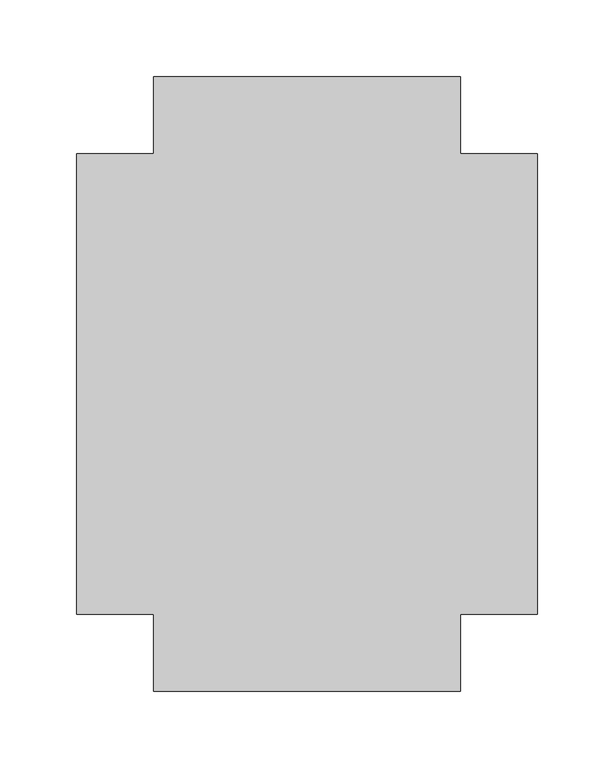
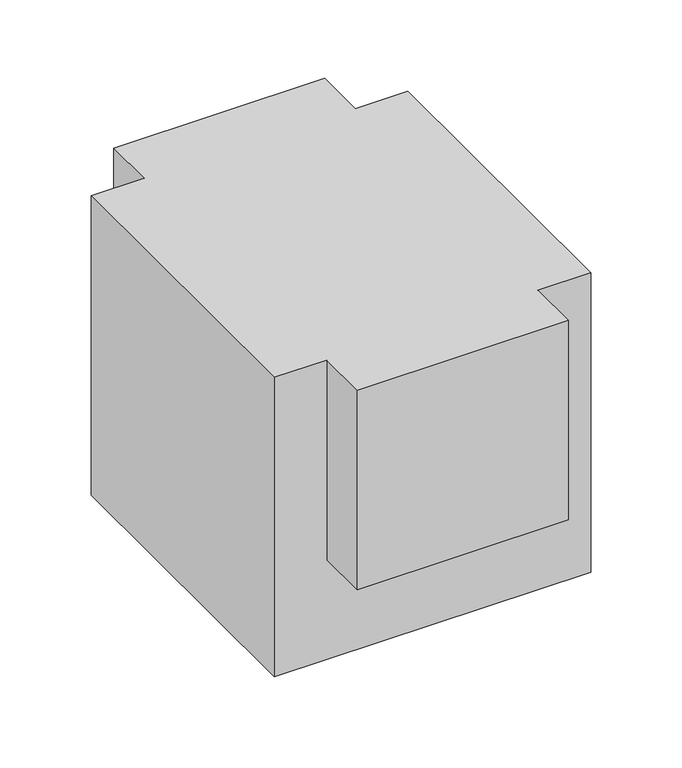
"""IFC4 building model written with IfcOpenShell, lengths in millimetres: duct fitting geometry, BL_КрестовинаВоздуховодов_Прямоугольная : BL_КрестовинаВоздуховодов_Прямоугольная."""

from ifc_helpers import new_model, si_unit, origin, place, context, project, spatial, faceted_brep, source, transform, mapped, element, save


def duct_fitting_134aa0d4(model_context):
    return source(origin(), model_context, "Body", "Brep", [
        faceted_brep([(-150.0, 150.0, 150.0), (-150.0, 150.0, -150.0), (-150.0, -150.0, -150.0), (-150.0, -150.0, 150.0), (-100.0, 150.0, 150.0), (-100.0, 150.0, -50.0), (100.0, 150.0, -50.0), (100.0, 150.0, 150.0), (150.0, 150.0, 150.0), (150.0, 150.0, -150.0), (150.0, -150.0, -150.0), (150.0, -150.0, 150.0), (100.0, -150.0, 150.0), (100.0, -150.0, -50.0), (-100.0, -150.0, -50.0), (-100.0, -150.0, 150.0), (-100.0, -200.0, 150.0), (100.0, -200.0, 150.0), (100.0, 200.0, 150.0), (-100.0, 200.0, 150.0), (-100.0, -200.0, -50.0), (100.0, -200.0, -50.0), (100.0, 200.0, -50.0), (-100.0, 200.0, -50.0)], [[[0, 1, 2, 3]], [[1, 0, 4, 5, 6, 7, 8, 9]], [[2, 1, 9, 10]], [[3, 2, 10, 11, 12, 13, 14, 15]], [[0, 3, 15, 16, 17, 12, 11, 8, 7, 18, 19, 4]], [[8, 11, 10, 9]], [[16, 20, 21, 17]], [[20, 16, 15, 14]], [[21, 20, 14, 13]], [[17, 21, 13, 12]], [[18, 22, 23, 19]], [[22, 18, 7, 6]], [[23, 22, 6, 5]], [[19, 23, 5, 4]]]),
    ])


if __name__ == "__main__":
    model = new_model("IFC4")
    model_context = context("Model", 3, world=origin())
    ifc_project = project(units=[si_unit("LENGTHUNIT", "METRE", prefix="MILLI")], contexts=[model_context])
    site = spatial("IfcSite", under=ifc_project)
    building = spatial("IfcBuilding", under=site)
    placement = place(None, origin())
    duct_fitting_shape = duct_fitting_134aa0d4(model_context)
    element("IfcDuctFitting", 1, ObjectType="BL_КрестовинаВоздуховодов_Прямоугольная : BL_КрестовинаВоздуховодов_Прямоугольная", at=placement, inside=building, context=model_context, shape_type="MappedRepresentation", body=[
        mapped(duct_fitting_shape, transform((0.0, 0.0, 0.0), x_axis=(1.0, 0.0, 0.0), y_axis=(0.0, 1.0, 0.0), z_axis=(0.0, 0.0, 1.0))),
    ])
    save(model, "model.ifc")
